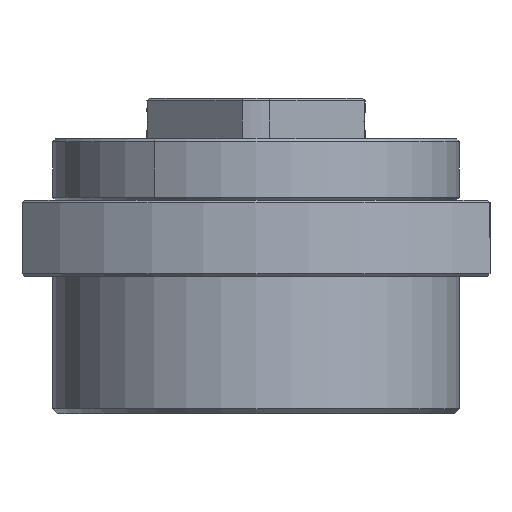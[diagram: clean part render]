
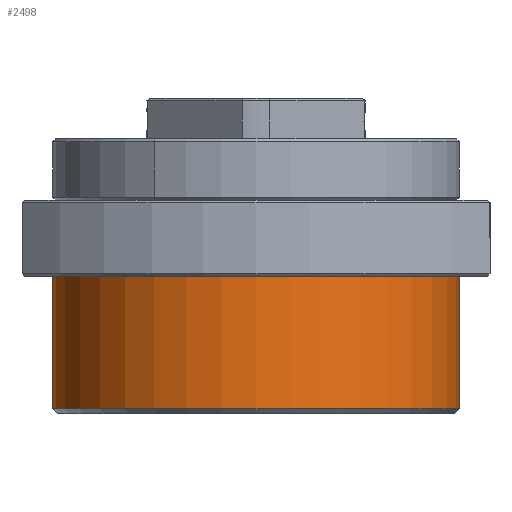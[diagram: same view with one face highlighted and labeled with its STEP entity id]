
A CAD part, left-side view. The second image highlights one B-rep face of the part: STEP entity #2498.
In plain terms, the highlighted cylindrical face has radius 40 mm (diameter 80 mm), a partial arc.
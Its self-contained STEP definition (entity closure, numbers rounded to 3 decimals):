
#62 = ORIENTED_EDGE ( 'NONE', *, *, #5516, .T. ) ;
#406 = DIRECTION ( 'NONE',  ( 0., 1., 0. ) ) ;
#423 = DIRECTION ( 'NONE',  ( 0., -1., 0. ) ) ;
#1088 = AXIS2_PLACEMENT_3D ( 'NONE', #8670, #10729, #406 ) ;
#1126 = ORIENTED_EDGE ( 'NONE', *, *, #4920, .T. ) ;
#1942 = VECTOR ( 'NONE', #11906, 1000. ) ;
#2203 = EDGE_CURVE ( 'NONE', #8298, #12994, #4162, .T. ) ;
#2498 = ADVANCED_FACE ( 'NONE', ( #8355 ), #9339, .T. ) ;
#2508 = CARTESIAN_POINT ( 'NONE',  ( 0., 0., 6. ) ) ;
#3944 = CARTESIAN_POINT ( 'NONE',  ( 0., 40., 6. ) ) ;
#4162 = CIRCLE ( 'NONE', #1088, 40. ) ;
#4701 = CARTESIAN_POINT ( 'NONE',  ( 0., 40., -20. ) ) ;
#4920 = EDGE_CURVE ( 'NONE', #7900, #8298, #8537, .T. ) ;
#5388 = CIRCLE ( 'NONE', #7362, 40. ) ;
#5516 = EDGE_CURVE ( 'NONE', #7643, #7900, #5388, .T. ) ;
#5889 = CARTESIAN_POINT ( 'NONE',  ( 0., 40., 6. ) ) ;
#6080 = EDGE_CURVE ( 'NONE', #7643, #12994, #8348, .T. ) ;
#6785 = DIRECTION ( 'NONE',  ( 0., 0., -1. ) ) ;
#7151 = ORIENTED_EDGE ( 'NONE', *, *, #2203, .T. ) ;
#7362 = AXIS2_PLACEMENT_3D ( 'NONE', #7928, #6785, #10299 ) ;
#7624 = AXIS2_PLACEMENT_3D ( 'NONE', #2508, #11929, #423 ) ;
#7643 = VERTEX_POINT ( 'NONE', #9767 ) ;
#7895 = CARTESIAN_POINT ( 'NONE',  ( 0., -40., 6. ) ) ;
#7900 = VERTEX_POINT ( 'NONE', #3944 ) ;
#7928 = CARTESIAN_POINT ( 'NONE',  ( 0., 0., 6. ) ) ;
#8298 = VERTEX_POINT ( 'NONE', #4701 ) ;
#8348 = LINE ( 'NONE', #7895, #1942 ) ;
#8355 = FACE_OUTER_BOUND ( 'NONE', #11149, .T. ) ;
#8537 = LINE ( 'NONE', #5889, #11964 ) ;
#8670 = CARTESIAN_POINT ( 'NONE',  ( 0., 0., -20. ) ) ;
#9339 = CYLINDRICAL_SURFACE ( 'NONE', #7624, 40. ) ;
#9647 = CARTESIAN_POINT ( 'NONE',  ( 0., -40., -20. ) ) ;
#9767 = CARTESIAN_POINT ( 'NONE',  ( 0., -40., 6. ) ) ;
#10299 = DIRECTION ( 'NONE',  ( 0., -1., 0. ) ) ;
#10729 = DIRECTION ( 'NONE',  ( 0., 0., 1. ) ) ;
#11149 = EDGE_LOOP ( 'NONE', ( #62, #1126, #7151, #12280 ) ) ;
#11906 = DIRECTION ( 'NONE',  ( 0., 0., -1. ) ) ;
#11929 = DIRECTION ( 'NONE',  ( 0., 0., -1. ) ) ;
#11964 = VECTOR ( 'NONE', #13270, 1000. ) ;
#12280 = ORIENTED_EDGE ( 'NONE', *, *, #6080, .F. ) ;
#12994 = VERTEX_POINT ( 'NONE', #9647 ) ;
#13270 = DIRECTION ( 'NONE',  ( 0., 0., -1. ) ) ;
